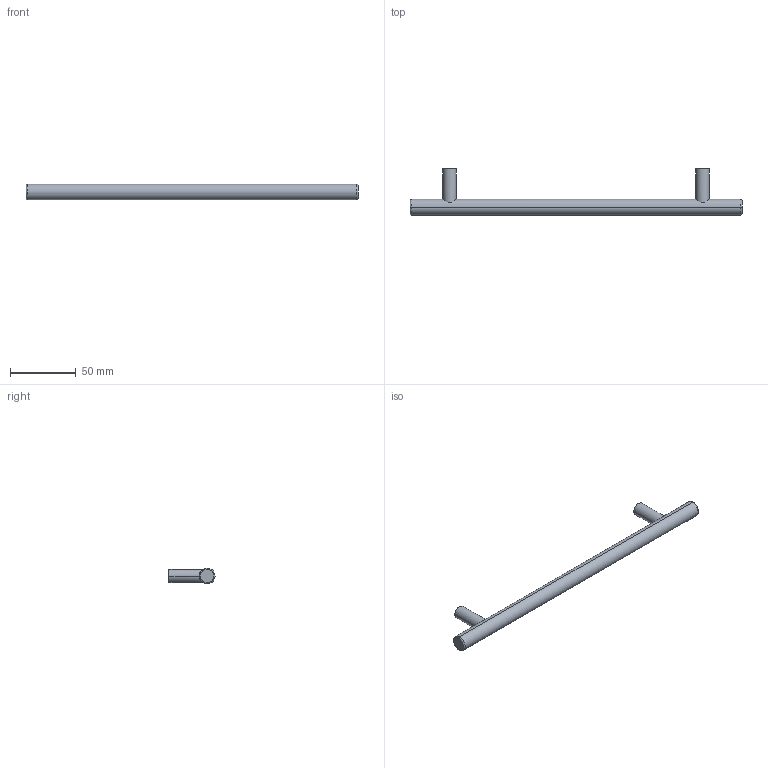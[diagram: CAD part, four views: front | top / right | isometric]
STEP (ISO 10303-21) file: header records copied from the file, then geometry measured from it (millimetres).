
FILE_DESCRIPTION( ( '' ), '1' );
FILE_NAME( 'C:/Documents and Settings/Sachin/Desktop/Sheet 10_1/stp/9070765.stp', '2013-10-22T12:31:51', ( '' ), ( '' ), ' ', ' ', ' ' );
FILE_SCHEMA( ( 'CONFIG_CONTROL_DESIGN' ) );
Length unit declared in the file: millimetre
Products named in the file (1): 1
Bounding box: 252 x 35 x 12 mm (x, y, z)
Volume: 31987.9 mm3; surface area: 11398 mm2
Topology: 1 solids, 1 shells, 20 faces, 44 edges, 30 vertices
Faces by surface type: cylinder 10, plane 6, torus 4
Entity records: 738 total; most frequent: CARTESIAN_POINT 229, DIRECTION 108, ORIENTED_EDGE 88, AXIS2_PLACEMENT_3D 49, EDGE_CURVE 44, VERTEX_POINT 30, CIRCLE 28, EDGE_LOOP 24
